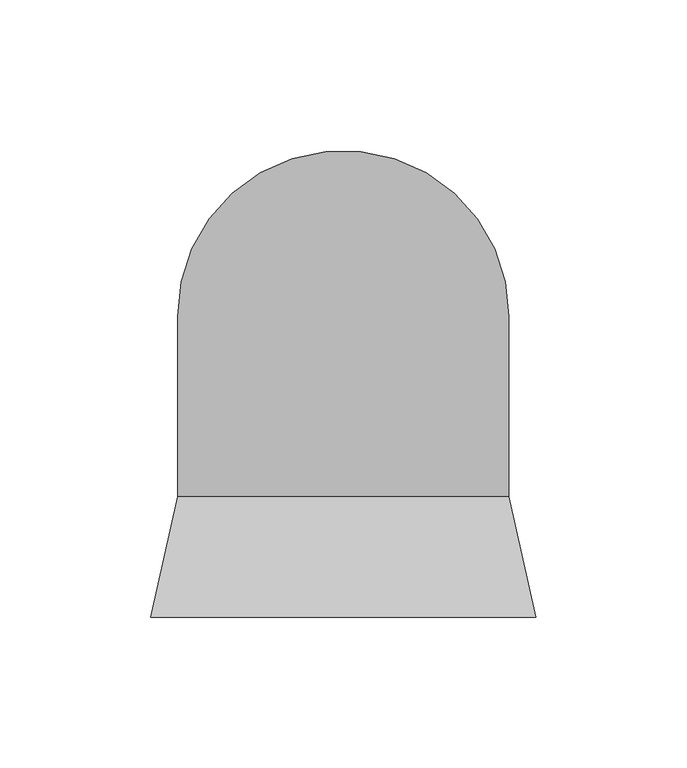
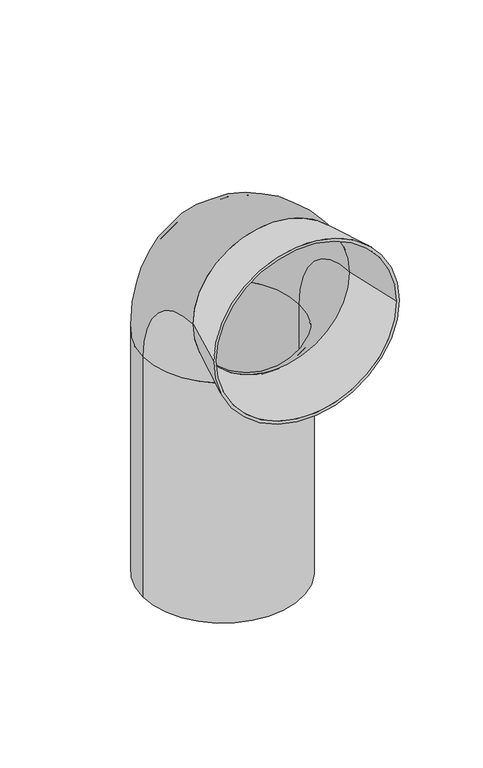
"""IFC4 building model written with IfcOpenShell, lengths in millimetres: sanitary terminal geometry, RSen_52_PIF_UN_wall closet bend 301a_wisa : wall closet bend_wisa_301A."""

from ifc_helpers import new_model, si_unit, point, frame, origin, origin_with_axes, place, context, project, spatial, polyline, circle_curve, ellipse_curve, trimmed, source, transform, mapped, element, save
from ifc_brep_helpers import plane_surface, cylinder_surface, revolved_surface, advanced_brep


def sanitary_terminal_00537892(model_context):
    return source(origin(), model_context, "Body", "AdvancedBrep", [
        advanced_brep(
        [(-64.0, -100.0, 235.0), (64.0, -100.0, 235.0), (62.0, -100.0, 235.0), (-62.0, -100.0, 235.0), (-55.0, -60.0, 235.0), (55.0, -60.0, 235.0), (-53.0, -60.0, 235.0), (53.0, -60.0, 235.0)],
        [
            (0, 1, circle_curve(frame((0.0, -100.0, 235.0), z_axis=(0.0, -1.0, 0.0), x_axis=(-1.0, 0.0, 0.0)), 64.0)),
            (1, 0, circle_curve(frame((0.0, -100.0, 235.0), z_axis=(0.0, -1.0, 0.0), x_axis=(1.0, 0.0, 0.0)), 64.0)),
            (2, 3, circle_curve(frame((0.0, -100.0, 235.0), z_axis=(0.0, 1.0, 0.0), x_axis=(-1.0, 0.0, 0.0)), 62.0)),
            (3, 2, circle_curve(frame((0.0, -100.0, 235.0), z_axis=(0.0, 1.0, 0.0), x_axis=(1.0, 0.0, 0.0)), 62.0)),
            (4, 5, circle_curve(frame((0.0, -60.0, 235.0), z_axis=(0.0, 1.0, 0.0), x_axis=(1.0, 0.0, 0.0)), 55.0)),
            (5, 4, circle_curve(frame((0.0, -60.0, 235.0), z_axis=(0.0, 1.0, 0.0), x_axis=(-1.0, 0.0, 0.0)), 55.0)),
            (6, 7, circle_curve(frame((0.0, -60.0, 235.0), z_axis=(0.0, -1.0, 0.0), x_axis=(-1.0, 0.0, 0.0)), 53.0)),
            (7, 6, circle_curve(frame((0.0, -60.0, 235.0), z_axis=(0.0, -1.0, 0.0), x_axis=(1.0, 0.0, 0.0)), 53.0)),
            (0, 4),
            (5, 1),
            (6, 3),
            (2, 7),
        ],
        [
            plane_surface(frame((0.0, -100.0, 235.0), z_axis=(0.0, -1.0, 0.0), x_axis=(0.0, 0.0, -1.0))),
            plane_surface(frame((0.0, -60.0, 235.0), z_axis=(0.0, 1.0, 0.0), x_axis=(0.0, 0.0, -1.0))),
            revolved_surface(polyline([(54.99999999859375, -60.0, 235.0), (64.0, -100.0, 235.0)]), (0.0, 184.4444444, 235.0), (0.0, -1.0, 0.0)),
            revolved_surface(polyline([(-54.99999999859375, -60.0, 235.0), (-64.0, -100.0, 235.0)]), (0.0, 184.4444444, 235.0), (0.0, -1.0, 0.0)),
            revolved_surface(polyline([(-62.0, -100.0, 235.0), (-53.00000000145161, -60.0, 235.0)]), (0.0, 175.5555556, 235.0), (0.0, -1.0, 0.0)),
        ],
        [
            (0, [[1, 2], [3, 4]]),
            (1, [[5, 6], [7, 8]]),
            (2, [[-1, 9, -6, 10]]),
            (3, [[-2, -10, -5, -9]]),
            (4, [[11, -3, 12, -7]]),
            (4, [[-11, -8, -12, -4]]),
        ],
    ),
        advanced_brep(
        [(-55.0, 0.0, 0.0), (55.0, 0.0, 0.0), (-53.0, 0.0, 0.0), (53.0, 0.0, 0.0), (-55.0, 0.0, 175.0), (55.0, 0.0, 175.0), (-55.0, -60.0, 235.0), (55.0, -60.0, 235.0), (-53.0, -60.0, 235.0), (53.0, -60.0, 235.0), (-53.0, 0.0, 175.0), (53.0, 0.0, 175.0)],
        [
            (0, 1, circle_curve(frame((0.0, 0.0, 0.0), z_axis=(0.0, 0.0, -1.0), x_axis=(1.0, 0.0, 0.0)), 55.0)),
            (1, 0, circle_curve(frame((0.0, 0.0, 0.0), z_axis=(0.0, 0.0, -1.0), x_axis=(1.0, 0.0, 0.0)), 55.0)),
            (2, 3, circle_curve(origin_with_axes(), 53.0)),
            (3, 2, circle_curve(origin_with_axes(), 53.0)),
            (0, 4),
            (4, 5, circle_curve(frame((0.0, 0.0, 175.0), z_axis=(0.0, 0.0, -1.0), x_axis=(1.0, 0.0, 0.0)), 55.0)),
            (5, 1),
            (5, 4, circle_curve(frame((0.0, 0.0, 175.0), z_axis=(0.0, 0.0, -1.0), x_axis=(1.0, 0.0, 0.0)), 55.0)),
            (6, 7, circle_curve(frame((0.0, -60.0, 235.0), z_axis=(0.0, -1.0, 0.0), x_axis=(1.0, 0.0, 0.0)), 55.0)),
            (7, 6, circle_curve(frame((0.0, -60.0, 235.0), z_axis=(0.0, -1.0, 0.0), x_axis=(1.0, 0.0, 0.0)), 55.0)),
            (8, 9, circle_curve(frame((0.0, -60.0, 235.0), z_axis=(0.0, 1.0, 0.0), x_axis=(1.0, 0.0, 0.0)), 53.0)),
            (9, 8, circle_curve(frame((0.0, -60.0, 235.0), z_axis=(0.0, 1.0, 0.0), x_axis=(1.0, 0.0, 0.0)), 53.0)),
            (7, 5, circle_curve(frame((55.0, -60.0, 175.0), z_axis=(-1.0, 0.0, 0.0), x_axis=(0.0, 1.0, 0.0)), 60.0)),
            (4, 6, circle_curve(frame((-55.0, -60.0, 175.0), z_axis=(1.0, 0.0, 0.0), x_axis=(0.0, 1.0, 0.0)), 60.0)),
            (2, 10),
            (10, 11, circle_curve(frame((0.0, 0.0, 175.0), z_axis=(0.0, 0.0, 1.0), x_axis=(1.0, 0.0, 0.0)), 53.0)),
            (11, 3),
            (11, 10, circle_curve(frame((0.0, 0.0, 175.0), z_axis=(0.0, 0.0, 1.0), x_axis=(1.0, 0.0, 0.0)), 53.0)),
            (9, 11, circle_curve(frame((53.0, -60.0, 175.0), z_axis=(-1.0, 0.0, 0.0), x_axis=(0.0, 1.0, 0.0)), 60.0)),
            (10, 8, circle_curve(frame((-53.0, -60.0, 175.0), z_axis=(1.0, 0.0, 0.0), x_axis=(0.0, 1.0, 0.0)), 60.0)),
        ],
        [
            plane_surface(frame((0.0, 0.0, 0.0), z_axis=(0.0, 0.0, -1.0), x_axis=(1.0, 0.0, 0.0))),
            cylinder_surface(frame((0.0, 0.0, 0.0), z_axis=(0.0, 0.0, -1.0), x_axis=(1.0, 0.0, 0.0)), 55.0),
            plane_surface(frame((0.0, -60.0, 235.0), z_axis=(0.0, -1.0, 0.0), x_axis=(1.0, 0.0, 0.0))),
            revolved_surface(trimmed(ellipse_curve(frame((0.0, 0.0, 175.0), z_axis=(0.0, 0.0, -1.0), x_axis=(1.0, 0.0, 0.0)), 55.0, 55.0), [point((-55.0, 0.0, 175.0))], [point((55.0, 0.0, 175.0))], True, "CARTESIAN"), (0.0, -60.0, 175.0), (1.0, 0.0, 0.0)),
            revolved_surface(trimmed(ellipse_curve(frame((0.0, 0.0, 175.0), z_axis=(0.0, 0.0, -1.0), x_axis=(1.0, 0.0, 0.0)), 55.0, 55.0), [point((55.0, 0.0, 175.0))], [point((-55.0, 0.0, 175.0))], True, "CARTESIAN"), (0.0, -60.0, 175.0), (1.0, 0.0, 0.0)),
            revolved_surface(polyline([(53.0, 0.0, 175.0), (53.0, 0.0, 0.0)]), (0.0, 0.0, 0.0), (0.0, 0.0, 1.0)),
            revolved_surface(trimmed(ellipse_curve(frame((0.0, 0.0, 175.0), z_axis=(0.0, 0.0, 1.0), x_axis=(1.0, 0.0, 0.0)), 53.0, 53.0), [point((-53.0, 0.0, 175.0))], [point((53.0, 0.0, 175.0))], True, "CARTESIAN"), (0.0, -60.0, 175.0), (1.0, 0.0, 0.0)),
            revolved_surface(trimmed(ellipse_curve(frame((0.0, 0.0, 175.0), z_axis=(0.0, 0.0, 1.0), x_axis=(1.0, 0.0, 0.0)), 53.0, 53.0), [point((53.0, 0.0, 175.0))], [point((-53.0, 0.0, 175.0))], True, "CARTESIAN"), (0.0, -60.0, 175.0), (1.0, 0.0, 0.0)),
        ],
        [
            (0, [[1, 2], [3, 4]]),
            (1, [[-1, 5, 6, 7]]),
            (1, [[-2, -7, 8, -5]]),
            (2, [[9, 10], [11, 12]]),
            (3, [[13, -6, 14, -10]]),
            (4, [[-14, -8, -13, -9]]),
            (5, [[-3, 15, 16, 17]]),
            (5, [[-4, -17, 18, -15]]),
            (6, [[19, -16, 20, -12]]),
            (7, [[-20, -18, -19, -11]]),
        ],
    ),
    ])


if __name__ == "__main__":
    model = new_model("IFC4")
    model_context = context("Model", 3, world=origin())
    ifc_project = project(units=[si_unit("LENGTHUNIT", "METRE", prefix="MILLI")], contexts=[model_context])
    site = spatial("IfcSite", under=ifc_project)
    building = spatial("IfcBuilding", under=site)
    placement = place(None, origin())
    sanitary_terminal_shape = sanitary_terminal_00537892(model_context)
    element("IfcSanitaryTerminal", 1, ObjectType="RSen_52_PIF_UN_wall closet bend 301a_wisa : wall closet bend_wisa_301A", at=placement, inside=building, context=model_context, shape_type="MappedRepresentation", body=[
        mapped(sanitary_terminal_shape, transform((0.0, 0.0, 0.0), x_axis=(1.0, 0.0, 0.0), y_axis=(0.0, 1.0, 0.0), z_axis=(0.0, 0.0, 1.0))),
    ])
    save(model, "model.ifc")
